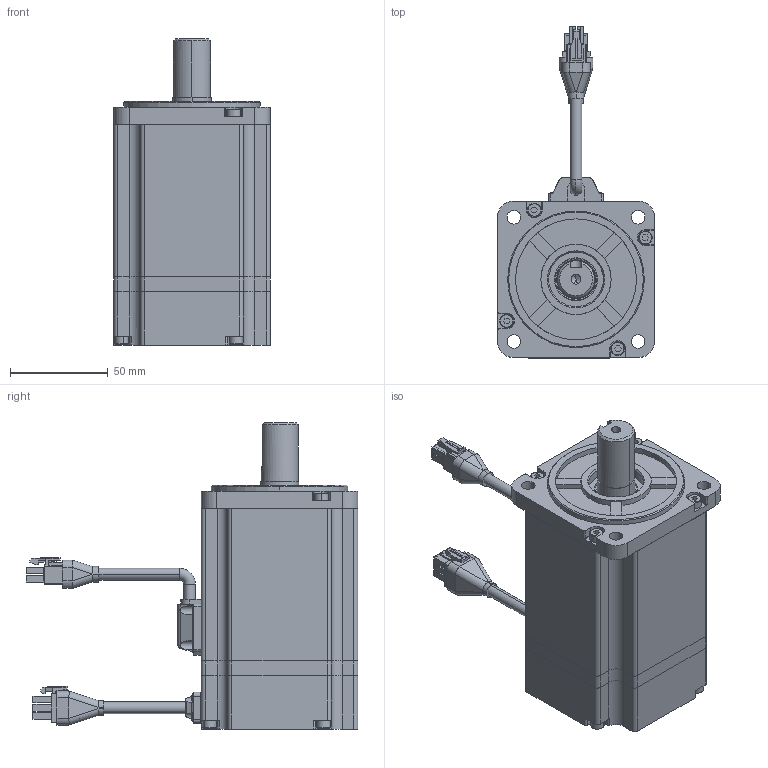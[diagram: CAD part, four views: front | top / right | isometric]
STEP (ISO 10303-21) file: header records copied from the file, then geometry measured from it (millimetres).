
FILE_DESCRIPTION((''),'2;1');
FILE_NAME('R80-750W_ASM','2018-11-26T',('JIANGFEI6'),(''),'CREO PARAMETRIC BY PTC INC, 2015480','CREO PARAMETRIC BY PTC INC, 2015480','');
FILE_SCHEMA(('CONFIG_CONTROL_DESIGN'));
Length unit declared in the file: millimetre
Products named in the file (17): __-001-2899; ___-001-6679; ___-001-12641; __-001-15617; M4X20; 6004; ___-001-22707; _____-26443; ______-28217; _____-35481; M2_5X5_1_2_3; ______-37225; ______-39695; _________1_2_3; ______-45855; ________1_2_3; R80-750W_ASM
Assembly tree (30 placements, depth 2):
  R80-750W_ASM
    __-001-2899
    ___-001-6679
    ___-001-12641
    __-001-15617
    M4X20  x8
    6004
    ___-001-22707
    _____-26443
    ______-28217
    _____-35481
    M2_5X5_1_2_3  x8
    ______-37225
    ______-39695
    _________1_2_3
    ______-45855
    ________1_2_3
Bounding box: 80.2 x 170 x 157 mm (x, y, z)
Volume: 290236.6 mm3; surface area: 144918.8 mm2
Topology: 29 solids, 54 shells, 1519 faces, 4301 edges, 2820 vertices
Faces by surface type: plane 713, cylinder 580, cone 97, torus 75, sphere 54
Entity records: 42519 total; most frequent: CARTESIAN_POINT 9784, DIRECTION 6754, ORIENTED_EDGE 6641, EDGE_CURVE 3507, AXIS2_PLACEMENT_3D 2421, VERTEX_POINT 2344, VECTOR 1912, LINE 1912
